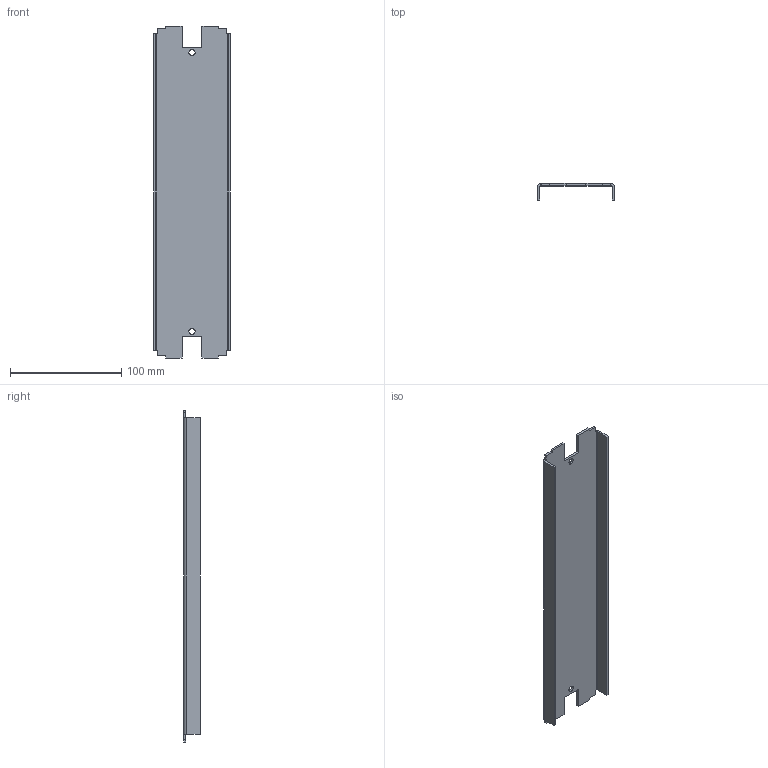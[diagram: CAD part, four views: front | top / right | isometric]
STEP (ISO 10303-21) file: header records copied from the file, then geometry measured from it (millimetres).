
FILE_DESCRIPTION(('CAx-IF Rec.Pracs.---Model Styling and Organization---1.2---2011-12-15','CAx-IF Rec.Pracs.---Geometric and Assembly Validation Properties---4.1---2014-06-16','CAx-IF Rec.Pracs.---PMI Polyline Presentation---2.0---2013-05-24'),'2;1');
FILE_NAME('R5CPL410.stp','2021-05-06T03:43:20+03:00',(''),(''),'STEP Interface 4.4 by CT CoreTechnologie','3D_Evolution4.4 by CT CoreTechnologie','');
FILE_SCHEMA(('AUTOMOTIVE_DESIGN { 1 0 10303 214 1 1 1 1 }'));
Length unit declared in the file: millimetre
Products named in the file (2): R5CPL410; RB.0549.00.00.0_-00
Assembly tree (1 placements, depth 2):
  R5CPL410
    RB.0549.00.00.0_-00
Bounding box: 69 x 15 x 299 mm (x, y, z)
Surface area: 55331.7 mm2 (no closed solid volume)
Topology: 0 solids, 1 shells, 44 faces, 122 edges, 80 vertices
Faces by surface type: plane 36, cylinder 8
Entity records: 1471 total; most frequent: CARTESIAN_POINT 248, ORIENTED_EDGE 244, DIRECTION 230, EDGE_CURVE 122, VECTOR 106, LINE 106, VERTEX_POINT 80, AXIS2_PLACEMENT_3D 62
